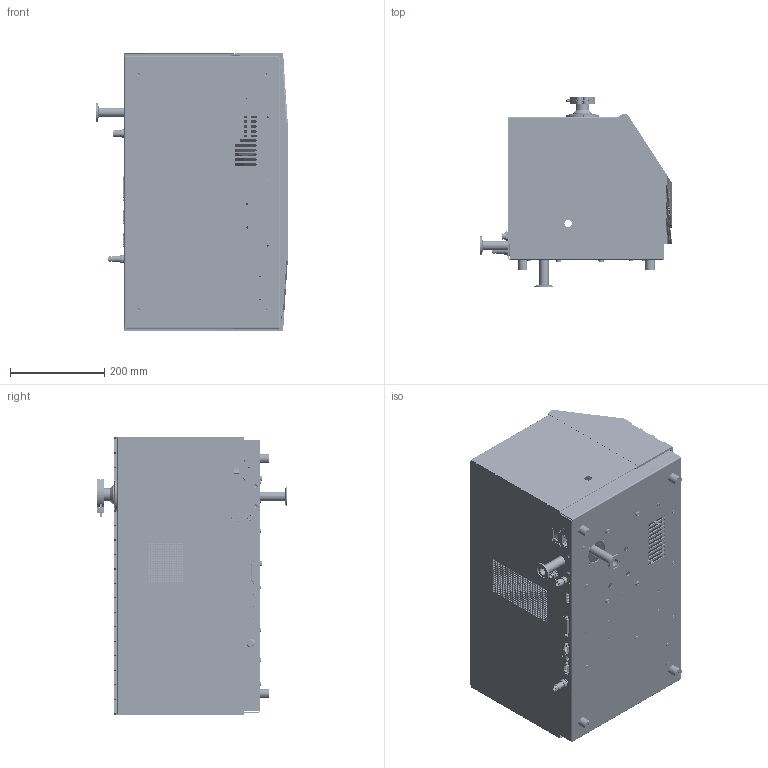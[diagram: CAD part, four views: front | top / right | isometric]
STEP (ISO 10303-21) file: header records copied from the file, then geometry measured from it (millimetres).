
FILE_DESCRIPTION (( 'STEP AP203' ), '1' );
FILE_NAME ('NHJ400H（外观成套用）.STEP', '2026-08-28T05:51:38', ( '' ), ( '' ), 'SwSTEP 2.0', 'SolidWorks 2024', '' );
FILE_SCHEMA (( 'CONFIG_CONTROL_DESIGN' ));
Products named in the file (1): NHJ400H（外观成套用）
Bounding box: 406.1 x 403.33 x 590.5 mm (x, y, z)
Volume: 3521870.1 mm3; surface area: 2559069.9 mm2
Topology: 35 solids, 37 shells, 7521 faces, 20436 edges, 13454 vertices
Faces by surface type: plane 3702, cylinder 2312, bspline 1219, cone 217, torus 71
Entity records: 291651 total; most frequent: CARTESIAN_POINT 105048, ORIENTED_EDGE 40732, DIRECTION 34324, EDGE_CURVE 20366, VERTEX_POINT 13454, LINE 12688, VECTOR 12688, AXIS2_PLACEMENT_3D 10818
